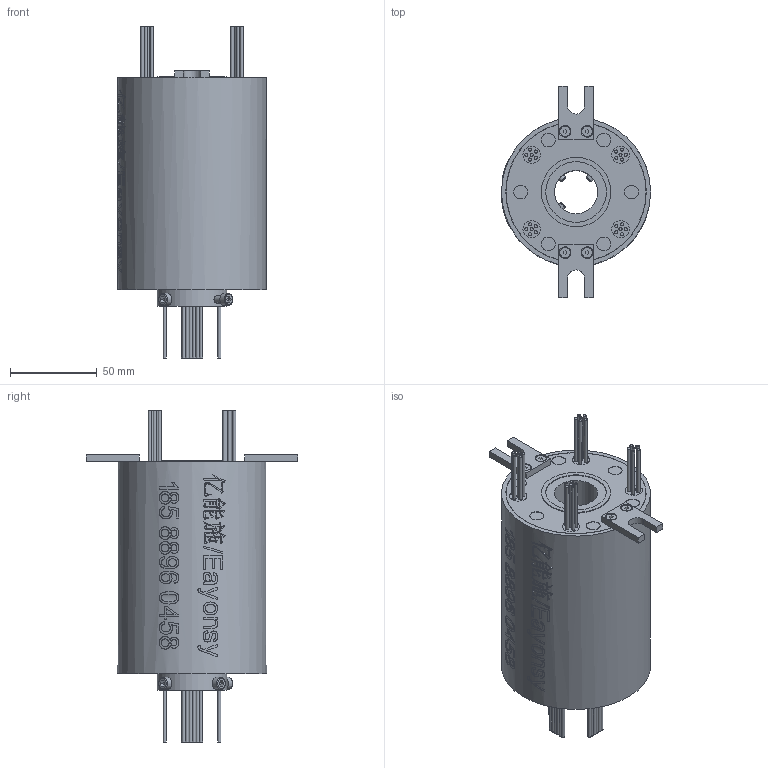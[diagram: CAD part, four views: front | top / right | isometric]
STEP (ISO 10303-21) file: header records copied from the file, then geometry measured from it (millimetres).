
FILE_DESCRIPTION(/* description */ (''),/* implementation_level */ '2;1');
FILE_NAME(/* name */ 'YD2586-2410-3D模型.stp',/* time_stamp */ '2025-09-03T10:55:21+08:00',/* author */ (''),/* organization */ (''),/* preprocessor_version */ 'ST-DEVELOPER v16.7',/* originating_system */ 'SIEMENS PLM Software NX 12.0',/* authorisation */ '');
FILE_SCHEMA (('AUTOMOTIVE_DESIGN { 1 0 10303 214 3 1 1 1 }'));
Length unit declared in the file: millimetre
Products named in the file (1): Admi1DD8882Fzkxu
Bounding box: 86.06 x 122 x 191.6 mm (x, y, z)
Volume: 666500.8 mm3; surface area: 69504.5 mm2
Topology: 1 solids, 9 shells, 1041 faces, 2651 edges, 1760 vertices
Faces by surface type: extrusion 452, plane 412, cylinder 124, bspline 33, cone 16, torus 4
Full cylindrical faces by diameter (mm): 1.8 x48, 2.5 x4, 3 x4, 3.4 x1, 3.5 x4, 4 x7, 6 x4, 7 x4, 8 x6, 10 x4, 25 x1, 35 x1, 40 x2, 40.5 x1, 80.8 x1, 80.9 x1, 81 x2, 86 x1
Entity records: 38748 total; most frequent: CARTESIAN_POINT 17267, ORIENTED_EDGE 5028, DIRECTION 2710, EDGE_CURVE 2514, B_SPLINE_CURVE_WITH_KNOTS 2203, VERTEX_POINT 1743, EDGE_LOOP 1303, ADVANCED_FACE 1041
